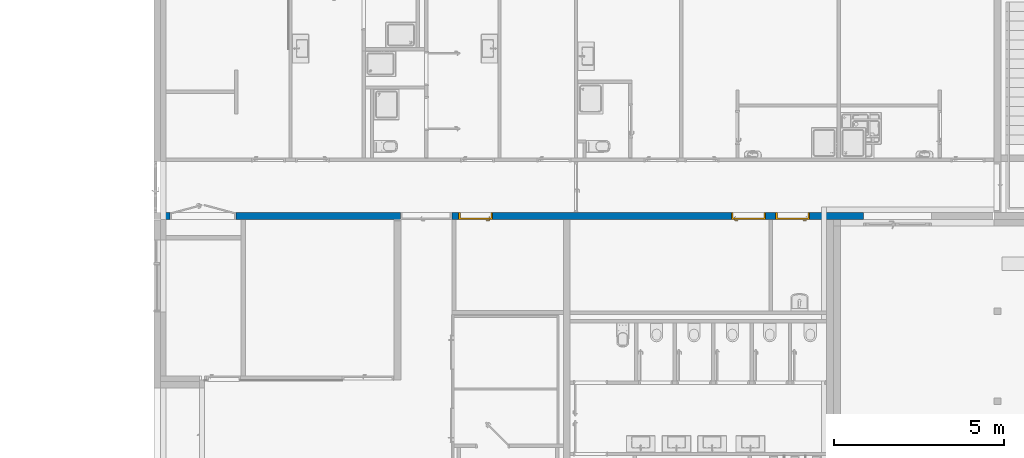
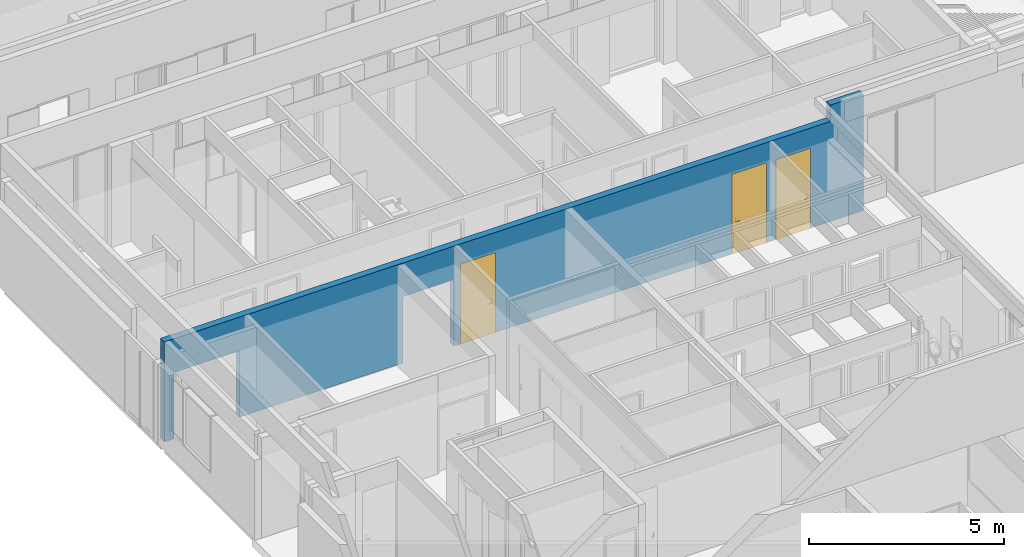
# One storey, part 102 of 240: 3 doors, 1 wall, 6 openings.
"""IFC2X3 building model written with IfcOpenShell, lengths in centimetres."""

from ifc_helpers import new_model, entity, si_unit, converted_unit, derived_unit, direction, frame, frame_2d, origin, place, context, subcontext, project, spatial, rectangle, extrude, faceted_brep, source, transform, mapped, material, material_list, layer, layer_set, layer_usage, type_object, type_shapes, element, fill, save


model = new_model("IFC2X3")

# Units and contexts
model_context = context("Model", 3, precision=0.001, world=origin(), true_north=direction((6.12303176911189e-17, 1.0)))
body_context = subcontext(model_context, "Body", "Model", "MODEL_VIEW")
ifc_project = project(units=[si_unit("LENGTHUNIT", "METRE", prefix="CENTI"), si_unit("AREAUNIT", "SQUARE_METRE"), si_unit("VOLUMEUNIT", "CUBIC_METRE"), converted_unit("PLANEANGLEUNIT", "DEGREE", entity("IfcRatioMeasure", 0.0174532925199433), si_unit("PLANEANGLEUNIT", "RADIAN"), dimensions=[0, 0, 0, 0, 0, 0, 0]), si_unit("MASSUNIT", "GRAM", prefix="KILO"), derived_unit("MASSDENSITYUNIT", [(si_unit("MASSUNIT", "GRAM", prefix="KILO"), 1), (si_unit("LENGTHUNIT", "METRE"), -3)]), si_unit("TIMEUNIT", "SECOND"), si_unit("FREQUENCYUNIT", "HERTZ"), si_unit("THERMODYNAMICTEMPERATUREUNIT", "DEGREE_CELSIUS"), derived_unit("THERMALTRANSMITTANCEUNIT", [(si_unit("MASSUNIT", "GRAM", prefix="KILO"), 1), (si_unit("THERMODYNAMICTEMPERATUREUNIT", "KELVIN"), -1), (si_unit("TIMEUNIT", "SECOND"), -3)]), derived_unit("VOLUMETRICFLOWRATEUNIT", [(si_unit("LENGTHUNIT", "METRE"), 3), (si_unit("TIMEUNIT", "SECOND"), -1)]), si_unit("ELECTRICCURRENTUNIT", "AMPERE"), si_unit("ELECTRICVOLTAGEUNIT", "VOLT"), si_unit("POWERUNIT", "WATT"), si_unit("FORCEUNIT", "NEWTON", prefix="KILO"), si_unit("ILLUMINANCEUNIT", "LUX"), si_unit("LUMINOUSFLUXUNIT", "LUMEN"), si_unit("LUMINOUSINTENSITYUNIT", "CANDELA"), derived_unit("USERDEFINED", [(si_unit("MASSUNIT", "GRAM", prefix="KILO"), -1), (si_unit("LENGTHUNIT", "METRE"), -2), (si_unit("TIMEUNIT", "SECOND"), 3), (si_unit("LUMINOUSFLUXUNIT", "LUMEN"), 1)]), derived_unit("LINEARVELOCITYUNIT", [(si_unit("LENGTHUNIT", "METRE"), 1), (si_unit("TIMEUNIT", "SECOND"), -1)]), si_unit("PRESSUREUNIT", "PASCAL"), derived_unit("USERDEFINED", [(si_unit("LENGTHUNIT", "METRE"), -2), (si_unit("MASSUNIT", "GRAM", prefix="KILO"), 1), (si_unit("TIMEUNIT", "SECOND"), -2)])], contexts=[model_context])

# Site, building, storey
site_placement = place(None, frame((-2781.94577612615, 7442.24238424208, 0.0)))
site = spatial("IfcSite", under=ifc_project, at=site_placement, Name="Default", CompositionType="ELEMENT")
building_placement = place(site_placement, origin())
building = spatial("IfcBuilding", under=site, at=building_placement, CompositionType="ELEMENT")
storey_placement = place(building_placement, origin())
storey = spatial("IfcBuildingStorey", under=building, at=storey_placement, Name="N00 - COO", CompositionType="ELEMENT", Elevation=0.0)

# Wall, openings, doors
ifc_material_1 = material(Name="01 - Maçonnerie")
ifc_layer = layer(ifc_material_1, 20.0)
ifc_layer_set = layer_set([ifc_layer], Name="Mur de base:04 - Structure - béton - 20cm")
ifc_layer_usage = layer_usage(ifc_layer_set, "AXIS2", "NEGATIVE", 10.0)
wall_type = type_object("IfcWallType", Name="Mur de base:04 - Structure - béton - 20cm", PredefinedType="STANDARD", material=ifc_layer_set)
wall_placement = place(building_placement, frame((-10881.6130476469, -1920.07903364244, 0.0)))
wall = element("IfcWallStandardCase", 1, at=wall_placement, inside=storey, type_object=wall_type, material=ifc_layer_usage, Name="Mur de base:04 - Structure - béton - 20cm", ObjectType="Mur de base:04 - Structure - béton - 20cm", context=body_context, shape_type="SweptSolid", body=[
    extrude(rectangle(XDim=2067.62566675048, YDim=19.9999999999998, at=frame_2d((1033.81283337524, 9.32587340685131e-14), x_axis=(-1.0, 0.0))), origin(), (0.0, 0.0, 1.0), 364.000000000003),
])
opening_1_placement = place(wall_placement, origin())
element("IfcOpeningElement", 2, at=opening_1_placement, cuts=wall, Name="Mur de base:04 - Structure - béton - 20cm:4570", ObjectType="Opening", context=body_context, shape_type="SweptSolid", body=[
    extrude(rectangle(XDim=51.0000000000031, YDim=1979.68086759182, at=frame_2d((0.0, 0.0), x_axis=(0.0, 1.0))), frame((979.840433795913, 10.0, 338.500000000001), z_axis=(0.0, -1.0, 0.0), x_axis=(-1.0, 0.0, 0.0)), (0.0, 0.0, 1.0), 20.0),
])
opening_2_placement = place(wall_placement, frame((856.778497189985, 10.0, 0.0)))
element("IfcOpeningElement", 3, at=opening_2_placement, cuts=wall, Name="Int. Tierce:PP (1.44m x 2.04m):1", ObjectType="Opening", context=body_context, shape_type="SweptSolid", body=[
    extrude(rectangle(XDim=207.500000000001, YDim=151.0, at=frame_2d((103.750000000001, 75.4999999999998), x_axis=(1.0, 0.0))), frame((0.0, 0.0, 0.0), z_axis=(0.0, -1.0, 0.0), x_axis=(0.0, 0.0, 1.0)), (0.0, 0.0, 1.0), 20.0),
])
opening_3_placement = place(wall_placement, frame((976.778497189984, 10.0, 0.0)))
opening_3 = element("IfcOpeningElement", 4, at=opening_3_placement, cuts=wall, Name="Int. Simple:PP simple (0.93m x 2.50m):1", ObjectType="Opening", context=body_context, shape_type="SweptSolid", body=[
    extrude(rectangle(XDim=248.500000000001, YDim=99.9999999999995, at=frame_2d((124.250000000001, 49.9999999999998), x_axis=(1.0, 0.0))), frame((0.0, 0.0, 0.0), z_axis=(0.0, -1.0, 0.0), x_axis=(0.0, 0.0, 1.0)), (0.0, 0.0, 1.0), 20.0),
])
opening_4_placement = place(wall_placement, frame((1779.61305066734, 10.0, 0.0)))
opening_4 = element("IfcOpeningElement", 5, at=opening_4_placement, cuts=wall, Name="Int. Simple:PP simple (0.93m x 2.50m):1", ObjectType="Opening", context=body_context, shape_type="SweptSolid", body=[
    extrude(rectangle(XDim=248.500000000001, YDim=99.9999999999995, at=frame_2d((124.250000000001, 50.0), x_axis=(1.0, 0.0))), frame((0.0, 0.0, 0.0), z_axis=(0.0, -1.0, 0.0), x_axis=(0.0, 0.0, 1.0)), (0.0, 0.0, 1.0), 20.0),
])
opening_5_placement = place(wall_placement, frame((1909.61305066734, 10.0, 0.0)))
opening_5 = element("IfcOpeningElement", 6, at=opening_5_placement, cuts=wall, Name="Int. Simple:PP simple (0.93m x 2.50m):1", ObjectType="Opening", context=body_context, shape_type="SweptSolid", body=[
    extrude(rectangle(XDim=248.500000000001, YDim=99.9999999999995, at=frame_2d((124.250000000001, 49.9999999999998), x_axis=(1.0, 0.0))), frame((0.0, 0.0, 0.0), z_axis=(0.0, -1.0, 0.0), x_axis=(0.0, 0.0, 1.0)), (0.0, 0.0, 1.0), 20.0),
])
opening_6_placement = place(wall_placement, frame((27.500000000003, -10.0, 0.0)))
element("IfcOpeningElement", 7, at=opening_6_placement, cuts=wall, Name="Int. Double:PP Placard (1.88m x 2.04m):1", ObjectType="Opening", context=body_context, shape_type="SweptSolid", body=[
    extrude(rectangle(XDim=207.500000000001, YDim=195.0, at=frame_2d((103.750000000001, 97.5000000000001), x_axis=(1.0, 0.0))), frame((0.0, 0.0, 0.0), z_axis=(0.0, 1.0, 0.0), x_axis=(0.0, 0.0, 1.0)), (0.0, 0.0, 1.0), 20.0),
])
ifc_material_2 = material(Name="Finition Peinture - Blanc satiné")
ifc_material_3 = material(Name="Bois - Panneau de porte")
ifc_material_4 = material(Name="Bois - Cadre de porte")
ifc_material_list_1 = material_list([ifc_material_2, ifc_material_3, ifc_material_4])
ifc_material_list_2 = material_list([ifc_material_2, ifc_material_3, ifc_material_4])
door_style_1 = type_object("IfcDoorStyle", Name="PP simple (0.93m x 2.50m)", ConstructionType="NOTDEFINED", OperationType="SINGLE_SWING_LEFT", ParameterTakesPrecedence=False, Sizeable=False, material=ifc_material_list_2)
shared_shape_1 = source(origin(), body_context, "Body", "Brep", [
    faceted_brep([(10.5352761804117, -0.500000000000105, 86.6003983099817), (11.5000000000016, -0.500000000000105, 87.0), (11.5000000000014, -0.500000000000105, 108.0), (10.5352761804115, -0.500000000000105, 108.399601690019), (9.50000000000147, -0.500000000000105, 108.535898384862), (8.46472381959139, -0.500000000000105, 108.399601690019), (7.50000000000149, -0.500000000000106, 108.0), (7.50000000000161, -0.500000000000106, 87.0), (8.46472381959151, -0.500000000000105, 86.6003983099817), (9.50000000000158, -0.500000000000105, 86.464101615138), (10.5352761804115, 0.0, 108.399601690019), (11.5000000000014, 0.0, 108.0), (11.5000000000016, 0.0, 87.0), (10.5352761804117, 0.0, 86.6003983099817), (9.50000000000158, 0.0, 86.464101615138), (8.46472381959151, 0.0, 86.6003983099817), (7.50000000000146, 0.0, 87.0), (7.50000000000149, 0.0, 108.0), (8.46472381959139, 0.0, 108.399601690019), (9.50000000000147, 0.0, 108.535898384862)], [[[0, 1, 2, 3, 4, 5, 6, 7, 8, 9]], [[10, 11, 12, 13, 14, 15, 16, 17, 18, 19]], [[16, 15, 8, 7]], [[8, 15, 14, 9]], [[14, 13, 0, 9]], [[13, 12, 1, 0]], [[2, 1, 12, 11]], [[11, 10, 3, 2]], [[3, 10, 19, 4]], [[19, 18, 5, 4]], [[18, 17, 6, 5]], [[7, 6, 17, 16]]]),
    faceted_brep([(10.5352761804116, 4.0, 86.6003983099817), (11.5000000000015, 4.0, 87.0), (11.5000000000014, 4.0, 108.0), (10.5352761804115, 4.0, 108.399601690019), (9.50000000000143, 4.0, 108.535898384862), (8.46472381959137, 4.0, 108.399601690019), (7.50000000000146, 4.0, 108.0), (7.50000000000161, 4.0, 87.0), (8.46472381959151, 4.0, 86.6003983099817), (9.50000000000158, 4.0, 86.464101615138), (10.5352761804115, 4.49999999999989, 108.399601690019), (11.5000000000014, 4.49999999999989, 108.0), (11.5000000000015, 4.49999999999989, 87.0), (10.5352761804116, 4.49999999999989, 86.6003983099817), (9.50000000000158, 4.49999999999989, 86.464101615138), (8.46472381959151, 4.49999999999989, 86.6003983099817), (7.50000000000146, 4.49999999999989, 87.0), (7.50000000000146, 4.49999999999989, 108.0), (8.46472381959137, 4.49999999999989, 108.399601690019), (9.50000000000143, 4.49999999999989, 108.535898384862)], [[[0, 1, 2, 3, 4, 5, 6, 7, 8, 9]], [[10, 11, 12, 13, 14, 15, 16, 17, 18, 19]], [[11, 10, 3, 2]], [[3, 10, 19, 4]], [[19, 18, 5, 4]], [[18, 17, 6, 5]], [[7, 6, 17, 16]], [[16, 15, 8, 7]], [[8, 15, 14, 9]], [[14, 13, 0, 9]], [[13, 12, 1, 0]], [[2, 1, 12, 11]]]),
    faceted_brep([(9.29747013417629, -0.500000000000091, 100.778044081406), (9.70252986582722, -0.500000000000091, 100.778044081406), (10.1000000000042, -0.500000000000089, 100.699999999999), (10.1000000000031, -0.500000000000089, 99.3000000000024), (9.7025298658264, -0.500000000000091, 99.2219559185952), (9.29747013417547, -0.500000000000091, 99.221955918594), (8.8999999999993, -0.500000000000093, 99.2999999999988), (8.89999999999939, -0.500000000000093, 100.7), (8.89999999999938, -3.26509507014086, 100.7), (9.29747013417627, -3.10045754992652, 100.778044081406), (10.9023585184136, -4.70534593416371, 100.778044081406), (11.0701397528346, -4.30028620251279, 100.778044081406), (9.7025298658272, -2.93267631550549, 100.778044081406), (10.1000000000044, -2.76803879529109, 100.7), (10.1000000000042, -2.76803879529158, 99.3000000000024), (9.7025298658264, -2.93267631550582, 99.2219559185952), (11.0701397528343, -4.30028620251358, 99.2219559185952), (10.9023585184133, -4.70534593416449, 99.221955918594), (9.29747013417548, -3.10045754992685, 99.221955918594), (8.89999999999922, -3.26509507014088, 99.2999999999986), (10.7377209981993, -5.10281606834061, 100.7), (11.2347772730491, -3.90281606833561, 100.7), (11.2347772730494, -3.90281606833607, 99.3000000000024), (10.7377209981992, -5.10281606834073, 99.2999999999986), (19.5018640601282, -5.1028160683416, 99.2999999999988), (19.5018640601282, -4.70534593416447, 99.221955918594), (19.5018640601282, -4.30028620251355, 99.2219559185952), (19.5018640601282, -3.90281606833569, 99.3000000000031), (19.5018640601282, -3.90281606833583, 100.7), (19.5018640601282, -4.30028620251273, 100.778044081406), (19.5018640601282, -4.70534593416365, 100.778044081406), (19.5018640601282, -5.10281606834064, 100.699999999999), (14.7307697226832, -5.10281606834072, 100.7), (15.2860019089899, -4.5028160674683, 100.78786867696), (15.3683206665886, -3.9028160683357, 100.7), (15.3683206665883, -3.90281606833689, 99.3000000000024), (15.2860018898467, -4.50281607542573, 99.2121313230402), (14.7307700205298, -5.10281606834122, 99.2999999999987)], [[[0, 1, 2, 3, 4, 5, 6, 7]], [[8, 9, 0, 7]], [[9, 10, 11, 12, 1, 0]], [[12, 13, 2, 1]], [[3, 2, 13, 14]], [[14, 15, 4, 3]], [[15, 16, 17, 18, 5, 4]], [[18, 19, 6, 5]], [[7, 6, 19, 8]], [[20, 10, 9, 8]], [[11, 21, 13, 12]], [[14, 13, 21, 22]], [[22, 16, 15, 14]], [[17, 23, 19, 18]], [[8, 19, 23, 20]], [[24, 25, 26, 27, 28, 29, 30, 31]], [[32, 30, 33]], [[31, 30, 32]], [[10, 20, 32]], [[33, 34, 11]], [[21, 11, 34]], [[34, 29, 28]], [[30, 29, 33]], [[29, 34, 33]], [[10, 32, 33]], [[10, 33, 11]], [[22, 21, 34, 28, 27, 35]], [[35, 26, 36]], [[37, 36, 25]], [[22, 35, 16]], [[35, 27, 26]], [[24, 37, 25]], [[23, 17, 37]], [[37, 17, 36]], [[17, 16, 36]], [[16, 35, 36]], [[25, 36, 26]], [[20, 23, 37, 24, 31, 32]]]),
    faceted_brep([(9.29747013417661, 4.49999999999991, 100.778044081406), (8.89999999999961, 4.4999999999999, 100.7), (8.89999999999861, 4.4999999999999, 99.2999999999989), (9.29747013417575, 4.49999999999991, 99.221955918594), (9.70252986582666, 4.49999999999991, 99.2219559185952), (10.1000000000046, 4.49999999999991, 99.3000000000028), (10.1000000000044, 4.49999999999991, 100.7), (9.70252986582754, 4.49999999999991, 100.778044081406), (10.1000000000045, 6.7485204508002, 99.3000000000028), (10.1000000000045, 6.74852045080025, 100.7), (9.70252986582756, 6.91315797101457, 100.778044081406), (11.083890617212, 8.29451872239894, 100.778044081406), (10.916109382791, 8.69957845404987, 100.778044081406), (9.29747013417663, 7.0809392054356, 100.778044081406), (8.89999999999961, 7.24557672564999, 100.7), (8.89999999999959, 7.2455767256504, 99.2999999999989), (9.29747013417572, 7.08093920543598, 99.221955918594), (10.9161093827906, 8.69957845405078, 99.221955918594), (11.0838906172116, 8.29451872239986, 99.2219559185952), (9.70252986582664, 6.91315797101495, 99.2219559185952), (11.2485281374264, 7.89704858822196, 99.3000000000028), (11.2485281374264, 7.89704858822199, 100.7), (10.7514718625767, 9.09704858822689, 100.7), (10.7514718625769, 9.0970485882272, 99.2999999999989), (19.5045783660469, 7.89704858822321, 99.3000000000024), (19.5045783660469, 8.29451872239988, 99.2219559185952), (19.5045783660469, 8.6995784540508, 99.221955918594), (19.5045783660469, 9.09704858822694, 99.2999999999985), (19.5045783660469, 9.09704858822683, 100.7), (19.5045783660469, 8.69957845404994, 100.778044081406), (19.5045783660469, 8.29451872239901, 100.778044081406), (19.5045783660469, 7.89704858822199, 100.7), (15.3765520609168, 7.89704858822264, 99.3000000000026), (15.3765532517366, 7.89704858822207, 100.7), (15.294234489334, 8.49704858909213, 100.78786867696), (14.7445205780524, 9.09704858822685, 100.7), (14.7445204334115, 9.09704858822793, 99.2999999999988), (15.2942345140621, 8.49704858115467, 99.2121313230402)], [[[0, 1, 2, 3, 4, 5, 6, 7]], [[6, 5, 8, 9]], [[9, 10, 7, 6]], [[10, 11, 12, 13, 0, 7]], [[13, 14, 1, 0]], [[2, 1, 14, 15]], [[15, 16, 3, 2]], [[16, 17, 18, 19, 4, 3]], [[19, 8, 5, 4]], [[9, 8, 20, 21]], [[21, 11, 10, 9]], [[12, 22, 14, 13]], [[15, 14, 22, 23]], [[23, 17, 16, 15]], [[18, 20, 8, 19]], [[24, 25, 26, 27, 28, 29, 30, 31]], [[21, 20, 32, 24, 31, 33]], [[33, 30, 34]], [[35, 34, 29]], [[21, 33, 11]], [[33, 31, 30]], [[28, 35, 29]], [[22, 12, 35]], [[35, 12, 34]], [[12, 11, 34]], [[11, 33, 34]], [[29, 34, 30]], [[22, 35, 28, 27, 36, 23]], [[36, 26, 37]], [[27, 26, 36]], [[17, 23, 36]], [[37, 32, 18]], [[20, 18, 32]], [[32, 25, 24]], [[26, 25, 37]], [[25, 32, 37]], [[17, 36, 37]], [[17, 37, 18]]]),
    faceted_brep([(3.50000000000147, 4.0, 245.0), (96.5000000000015, 4.0, 245.0), (96.5000000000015, 4.0, 0.0), (3.50000000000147, 4.0, 0.0), (3.50000000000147, 0.0, 245.0), (3.50000000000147, 0.0, 0.0), (96.5000000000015, 0.0, 0.0), (96.5000000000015, 0.0, 245.0)], [[[0, 1, 2, 3]], [[4, 5, 6, 7]], [[1, 0, 4, 7]], [[2, 1, 7, 6]], [[3, 2, 6, 5]], [[0, 3, 5, 4]]]),
    faceted_brep([(0.0, 20.0, 0.0), (-1.50000000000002, 20.0, 0.0), (-1.50000000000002, 20.5000000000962, 0.0), (5.0, 20.5000000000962, 0.0), (5.0, 4.0, 0.0), (3.50000000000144, 4.0, 0.0), (3.50000000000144, -0.500000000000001, 0.0), (-1.50000000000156, -0.500000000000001, 0.0), (-1.50000000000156, 0.0, 0.0), (0.0, 0.0, 0.0), (0.0, 0.0, 248.500000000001), (0.0, 20.0, 248.500000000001), (100.0, 20.0, 248.500000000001), (100.0, 20.0, 0.0), (101.5, 20.0, 0.0), (101.5, 20.0, 250.0), (-1.50000000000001, 20.0, 250.0), (5.0, 20.5000000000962, 243.5), (5.0, 4.0, 243.5), (95.0, 4.0, 243.5), (95.0, 4.0, 0.0), (96.499999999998, 4.0, 0.0), (96.499999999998, 4.0, 245.0), (3.50000000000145, 4.0, 245.0), (100.0, 0.0, 248.500000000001), (100.0, 0.0, 0.0), (101.500000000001, 0.0, 0.0), (101.500000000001, -0.500000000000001, 0.0), (96.499999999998, -0.500000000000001, 0.0), (95.0, 20.5000000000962, 0.0), (101.5, 20.5000000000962, 0.0), (95.0, 20.5000000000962, 243.5), (3.50000000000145, -0.500000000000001, 245.0), (96.499999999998, -0.500000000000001, 245.0), (101.500000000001, -0.500000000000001, 250.0), (-1.50000000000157, -0.500000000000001, 250.0), (-1.50000000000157, 0.0, 250.0), (101.500000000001, 0.0, 250.0), (-1.50000000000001, 20.5000000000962, 250.0), (101.5, 20.5000000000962, 250.0)], [[[0, 1, 2, 3, 4, 5, 6, 7, 8, 9]], [[0, 9, 10, 11]], [[1, 0, 11, 12, 13, 14, 15, 16]], [[3, 17, 18, 4]], [[5, 4, 18, 19, 20, 21, 22, 23]], [[12, 24, 25, 13]], [[13, 25, 26, 27, 28, 21, 20, 29, 30, 14]], [[19, 31, 29, 20]], [[11, 10, 24, 12]], [[18, 17, 31, 19]], [[5, 23, 32, 6]], [[7, 6, 32, 33, 28, 27, 34, 35]], [[8, 7, 35, 36]], [[9, 8, 36, 37, 26, 25, 24, 10]], [[2, 1, 16, 38]], [[3, 2, 38, 39, 30, 29, 31, 17]], [[33, 22, 21, 28]], [[37, 34, 27, 26]], [[39, 15, 14, 30]], [[32, 23, 22, 33]], [[36, 35, 34, 37]], [[38, 16, 15, 39]]]),
])
type_shapes(door_style_1, [shared_shape_1])
door_1_placement = place(opening_4_placement, frame((-100.000003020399, -20.0, 0.0)))
door_1 = element("IfcDoor", 8, at=door_1_placement, inside=storey, type_object=door_style_1, material=ifc_material_list_1, Name="Int. Simple:PP simple (0.93m x 2.50m)", ObjectType="Int. Simple:PP simple (0.93m x 2.50m)", OverallHeight=248.500000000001, OverallWidth=99.9999999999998, context=body_context, shape_type="MappedRepresentation", body=[
    mapped(shared_shape_1, transform((0.0, 0.0, 0.0), scale=1.0)),
])
fill(opening_4, door_1)
ifc_material_list_3 = material_list([ifc_material_2, ifc_material_3, ifc_material_4])
ifc_material_list_4 = material_list([ifc_material_2, ifc_material_3, ifc_material_4])
door_style_2 = type_object("IfcDoorStyle", Name="PP simple (0.93m x 2.50m)", ConstructionType="NOTDEFINED", OperationType="SINGLE_SWING_RIGHT", ParameterTakesPrecedence=False, Sizeable=False, material=ifc_material_list_4)
shared_shape_2 = source(origin(), body_context, "Body", "Brep", [
    faceted_brep([(99.5000000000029, -0.500000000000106, 87.0), (99.5000000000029, -0.500000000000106, 108.0), (98.535276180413, -0.500000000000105, 108.399601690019), (97.5000000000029, -0.500000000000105, 108.535898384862), (96.4647238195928, -0.500000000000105, 108.399601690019), (95.500000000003, -0.500000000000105, 108.0), (95.5000000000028, -0.500000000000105, 87.0), (96.4647238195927, -0.500000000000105, 86.6003983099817), (97.5000000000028, -0.500000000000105, 86.464101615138), (98.5352761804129, -0.500000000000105, 86.6003983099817), (99.5000000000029, 0.0, 108.0), (99.5000000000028, 0.0, 87.0), (98.5352761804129, 0.0, 86.6003983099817), (97.5000000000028, 0.0, 86.464101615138), (96.4647238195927, 0.0, 86.6003983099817), (95.5000000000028, 0.0, 87.0), (95.5000000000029, 0.0, 108.0), (96.4647238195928, 0.0, 108.399601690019), (97.5000000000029, 0.0, 108.535898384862), (98.535276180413, 0.0, 108.399601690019)], [[[0, 1, 2, 3, 4, 5, 6, 7, 8, 9]], [[10, 11, 12, 13, 14, 15, 16, 17, 18, 19]], [[9, 12, 11, 0]], [[8, 13, 12, 9]], [[7, 14, 13, 8]], [[7, 6, 15, 14]], [[15, 6, 5, 16]], [[4, 17, 16, 5]], [[3, 18, 17, 4]], [[2, 19, 18, 3]], [[2, 1, 10, 19]], [[11, 10, 1, 0]]]),
    faceted_brep([(99.5000000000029, 4.0, 87.0), (99.5000000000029, 4.0, 108.0), (98.535276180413, 4.0, 108.399601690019), (97.5000000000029, 4.0, 108.535898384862), (96.4647238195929, 4.0, 108.399601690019), (95.500000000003, 4.0, 108.0), (95.5000000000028, 4.0, 87.0), (96.4647238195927, 4.0, 86.6003983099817), (97.5000000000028, 4.0, 86.464101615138), (98.5352761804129, 4.0, 86.6003983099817), (97.5000000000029, 4.49999999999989, 108.535898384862), (98.535276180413, 4.49999999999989, 108.399601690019), (99.5000000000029, 4.49999999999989, 108.0), (99.5000000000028, 4.49999999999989, 87.0), (98.5352761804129, 4.49999999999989, 86.6003983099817), (97.5000000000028, 4.49999999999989, 86.464101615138), (96.4647238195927, 4.49999999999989, 86.6003983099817), (95.5000000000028, 4.49999999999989, 87.0), (95.500000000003, 4.49999999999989, 108.0), (96.4647238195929, 4.49999999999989, 108.399601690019)], [[[0, 1, 2, 3, 4, 5, 6, 7, 8, 9]], [[10, 11, 12, 13, 14, 15, 16, 17, 18, 19]], [[4, 19, 18, 5]], [[3, 10, 19, 4]], [[2, 11, 10, 3]], [[2, 1, 12, 11]], [[13, 12, 1, 0]], [[9, 14, 13, 0]], [[8, 15, 14, 9]], [[7, 16, 15, 8]], [[7, 6, 17, 16]], [[17, 6, 5, 18]]]),
    faceted_brep([(97.2974701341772, -0.500000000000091, 100.778044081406), (97.7025298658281, -0.500000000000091, 100.778044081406), (98.1000000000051, -0.500000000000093, 100.699999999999), (98.100000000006, -0.500000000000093, 99.2999999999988), (97.7025298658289, -0.500000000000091, 99.221955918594), (97.297470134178, -0.500000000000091, 99.2219559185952), (96.9000000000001, -0.500000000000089, 99.3000000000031), (96.9000000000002, -0.500000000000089, 100.7), (97.7025298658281, -3.10045754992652, 100.778044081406), (98.1000000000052, -3.26509507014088, 100.7), (97.2974701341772, -2.93267631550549, 100.778044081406), (95.9298602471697, -4.30028620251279, 100.778044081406), (96.0976414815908, -4.70534593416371, 100.778044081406), (96.9000000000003, -2.76803879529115, 100.7), (96.9000000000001, -2.76803879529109, 99.3000000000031), (97.297470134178, -2.93267631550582, 99.2219559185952), (97.7025298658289, -3.10045754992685, 99.221955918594), (96.0976414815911, -4.70534593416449, 99.221955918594), (95.9298602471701, -4.30028620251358, 99.2219559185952), (98.100000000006, -3.26509507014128, 99.2999999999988), (96.2622790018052, -5.1028160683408, 100.7), (95.7652227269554, -3.90281606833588, 100.7), (95.7652227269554, -3.90281606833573, 99.3000000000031), (96.2622790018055, -5.10281606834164, 99.2999999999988), (87.4981359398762, -5.10281606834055, 100.7), (87.4981359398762, -4.70534593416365, 100.778044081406), (87.4981359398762, -4.30028620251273, 100.778044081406), (87.4981359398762, -3.90281606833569, 100.699999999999), (87.4981359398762, -3.90281606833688, 99.3000000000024), (87.4981359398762, -4.30028620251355, 99.2219559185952), (87.4981359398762, -4.70534593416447, 99.221955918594), (87.4981359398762, -5.10281606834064, 99.2999999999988), (91.7139980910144, -4.5028160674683, 100.78786867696), (92.2692302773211, -5.1028160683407, 100.7), (91.6316793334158, -3.9028160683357, 100.7), (91.631679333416, -3.90281606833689, 99.3000000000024), (91.7139981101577, -4.50281607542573, 99.2121313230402), (92.2692310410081, -5.10281606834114, 99.2999999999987)], [[[0, 1, 2, 3, 4, 5, 6, 7]], [[2, 1, 8, 9]], [[1, 0, 10, 11, 12, 8]], [[0, 7, 13, 10]], [[14, 13, 7, 6]], [[5, 15, 14, 6]], [[5, 4, 16, 17, 18, 15]], [[3, 19, 16, 4]], [[9, 19, 3, 2]], [[9, 8, 12, 20]], [[10, 13, 21, 11]], [[22, 21, 13, 14]], [[14, 15, 18, 22]], [[16, 19, 23, 17]], [[20, 23, 19, 9]], [[24, 25, 26, 27, 28, 29, 30, 31]], [[32, 25, 33]], [[33, 25, 24]], [[33, 20, 12]], [[11, 34, 32]], [[34, 11, 21]], [[27, 26, 34]], [[32, 26, 25]], [[32, 34, 26]], [[32, 33, 12]], [[11, 32, 12]], [[21, 22, 35, 28, 27, 34]], [[36, 29, 35]], [[30, 36, 37]], [[18, 35, 22]], [[29, 28, 35]], [[30, 37, 31]], [[37, 17, 23]], [[36, 17, 37]], [[36, 18, 17]], [[36, 35, 18]], [[29, 36, 30]], [[23, 20, 33, 24, 31, 37]]]),
    faceted_brep([(97.2974701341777, 4.49999999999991, 99.2219559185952), (97.7025298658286, 4.49999999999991, 99.221955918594), (98.1000000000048, 4.4999999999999, 99.2999999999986), (98.1000000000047, 4.4999999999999, 100.7), (97.7025298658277, 4.49999999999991, 100.778044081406), (97.2974701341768, 4.49999999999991, 100.778044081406), (96.8999999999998, 4.49999999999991, 100.7), (96.900000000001, 4.49999999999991, 99.3000000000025), (96.8999999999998, 6.7485204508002, 100.7), (96.8999999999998, 6.74852045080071, 99.3000000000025), (97.2974701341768, 6.91315797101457, 100.778044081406), (97.7025298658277, 7.0809392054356, 100.778044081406), (96.0838906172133, 8.69957845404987, 100.778044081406), (95.9161093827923, 8.29451872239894, 100.778044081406), (98.1000000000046, 7.24557672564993, 100.7), (98.1000000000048, 7.24557672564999, 99.2999999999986), (97.7025298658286, 7.08093920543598, 99.221955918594), (97.2974701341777, 6.91315797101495, 99.2219559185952), (95.9161093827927, 8.29451872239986, 99.2219559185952), (96.0838906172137, 8.69957845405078, 99.221955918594), (95.751471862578, 7.89704858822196, 100.7), (95.7514718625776, 7.89704858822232, 99.3000000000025), (96.2485281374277, 9.09704858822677, 100.7), (96.2485281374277, 9.09704858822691, 99.2999999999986), (87.4954216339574, 8.29451872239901, 100.778044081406), (87.4954216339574, 8.69957845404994, 100.778044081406), (87.4954216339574, 9.09704858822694, 100.7), (87.4954216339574, 9.09704858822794, 99.2999999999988), (87.4954216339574, 8.6995784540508, 99.221955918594), (87.4954216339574, 8.29451872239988, 99.2219559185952), (87.4954216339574, 7.89704858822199, 99.3000000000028), (87.4954216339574, 7.89704858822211, 100.7), (91.6234467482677, 7.89704858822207, 100.7), (91.6234479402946, 7.89704858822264, 99.3000000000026), (91.7057655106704, 8.49704858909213, 100.78786867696), (92.255479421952, 9.09704858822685, 100.7), (92.2554795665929, 9.09704858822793, 99.2999999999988), (91.7057654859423, 8.49704858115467, 99.2121313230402)], [[[0, 1, 2, 3, 4, 5, 6, 7]], [[8, 9, 7, 6]], [[5, 10, 8, 6]], [[5, 4, 11, 12, 13, 10]], [[3, 14, 11, 4]], [[14, 3, 2, 15]], [[2, 1, 16, 15]], [[1, 0, 17, 18, 19, 16]], [[0, 7, 9, 17]], [[20, 21, 9, 8]], [[8, 10, 13, 20]], [[14, 22, 12, 11]], [[23, 22, 14, 15]], [[15, 16, 19, 23]], [[17, 9, 21, 18]], [[24, 25, 26, 27, 28, 29, 30, 31]], [[21, 20, 32, 31, 30, 33]], [[34, 24, 32]], [[25, 34, 35]], [[13, 32, 20]], [[24, 31, 32]], [[25, 35, 26]], [[35, 12, 22]], [[34, 12, 35]], [[34, 13, 12]], [[34, 32, 13]], [[24, 34, 25]], [[22, 23, 36, 27, 26, 35]], [[37, 28, 36]], [[36, 28, 27]], [[36, 23, 19]], [[18, 33, 37]], [[33, 18, 21]], [[30, 29, 33]], [[37, 29, 28]], [[37, 33, 29]], [[37, 36, 19]], [[18, 37, 19]]]),
    faceted_brep([(103.500000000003, 4.0, 245.0), (103.500000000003, 4.0, 0.0), (10.5000000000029, 4.0, 0.0), (10.5000000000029, 4.0, 245.0), (103.500000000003, 0.0, 245.0), (10.5000000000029, 0.0, 245.0), (10.5000000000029, 0.0, 0.0), (103.500000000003, 0.0, 0.0)], [[[0, 1, 2, 3]], [[4, 5, 6, 7]], [[3, 5, 4, 0]], [[2, 6, 5, 3]], [[1, 7, 6, 2]], [[0, 4, 7, 1]]]),
    faceted_brep([(107.0, 20.0, 0.0), (107.0, 0.0, 0.0), (108.500000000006, 0.0, 0.0), (108.500000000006, -0.500000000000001, 0.0), (103.500000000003, -0.500000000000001, 0.0), (103.500000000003, 4.0, 0.0), (102.0, 4.0, 0.0), (102.0, 20.5000000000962, 0.0), (108.500000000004, 20.5000000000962, 0.0), (108.500000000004, 20.0, 0.0), (107.0, 20.0, 248.500000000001), (107.0, 0.0, 248.500000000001), (108.500000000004, 20.0, 250.0), (5.50000000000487, 20.0, 250.0), (5.50000000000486, 20.0, 0.0), (7.0, 20.0, 0.0), (7.0, 20.0, 248.500000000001), (102.0, 4.0, 243.5), (102.0, 20.5000000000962, 243.5), (103.500000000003, 4.0, 245.0), (10.5000000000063, 4.0, 245.0), (10.5000000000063, 4.0, 0.0), (12.0, 4.0, 0.0), (12.0, 4.0, 243.5), (7.0, 0.0, 0.0), (7.0, 0.0, 248.500000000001), (5.50000000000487, 20.5000000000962, 0.0), (12.0, 20.5000000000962, 0.0), (10.5000000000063, -0.500000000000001, 0.0), (5.5000000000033, -0.500000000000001, 0.0), (5.5000000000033, 0.0, 0.0), (12.0, 20.5000000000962, 243.5), (103.500000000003, -0.500000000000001, 245.0), (108.500000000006, -0.500000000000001, 250.0), (5.5000000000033, -0.500000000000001, 250.0), (10.5000000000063, -0.500000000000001, 245.0), (108.500000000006, 0.0, 250.0), (5.50000000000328, 0.0, 250.0), (108.500000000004, 20.5000000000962, 250.0), (5.50000000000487, 20.5000000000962, 250.0)], [[[0, 1, 2, 3, 4, 5, 6, 7, 8, 9]], [[0, 10, 11, 1]], [[9, 12, 13, 14, 15, 16, 10, 0]], [[7, 6, 17, 18]], [[5, 19, 20, 21, 22, 23, 17, 6]], [[16, 15, 24, 25]], [[15, 14, 26, 27, 22, 21, 28, 29, 30, 24]], [[23, 22, 27, 31]], [[10, 16, 25, 11]], [[17, 23, 31, 18]], [[5, 4, 32, 19]], [[3, 33, 34, 29, 28, 35, 32, 4]], [[2, 36, 33, 3]], [[1, 11, 25, 24, 30, 37, 36, 2]], [[8, 38, 12, 9]], [[7, 18, 31, 27, 26, 39, 38, 8]], [[35, 28, 21, 20]], [[37, 30, 29, 34]], [[39, 26, 14, 13]], [[32, 35, 20, 19]], [[36, 37, 34, 33]], [[38, 39, 13, 12]]]),
])
type_shapes(door_style_2, [shared_shape_2])
door_2_placement = place(opening_3_placement, frame((-107.0, -20.0, 0.0)))
door_2 = element("IfcDoor", 9, at=door_2_placement, inside=storey, type_object=door_style_2, material=ifc_material_list_3, Name="Int. Simple:PP simple (0.93m x 2.50m)", ObjectType="Int. Simple:PP simple (0.93m x 2.50m)", OverallHeight=248.500000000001, OverallWidth=99.9999999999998, context=body_context, shape_type="MappedRepresentation", body=[
    mapped(shared_shape_2, transform((0.0, 0.0, 0.0), scale=1.0)),
])
fill(opening_3, door_2)
ifc_material_list_5 = material_list([ifc_material_2, ifc_material_3, ifc_material_4])
door_3_placement = place(opening_5_placement, frame((-107.000003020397, -20.0, 0.0)))
door_3 = element("IfcDoor", 10, at=door_3_placement, inside=storey, type_object=door_style_2, material=ifc_material_list_5, Name="Int. Simple:PP simple (0.93m x 2.50m)", ObjectType="Int. Simple:PP simple (0.93m x 2.50m)", OverallHeight=248.500000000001, OverallWidth=99.9999999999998, context=body_context, shape_type="MappedRepresentation", body=[
    mapped(shared_shape_2, transform((0.0, 0.0, 0.0), scale=1.0)),
])
fill(opening_5, door_3)

save(model, "model.ifc")
